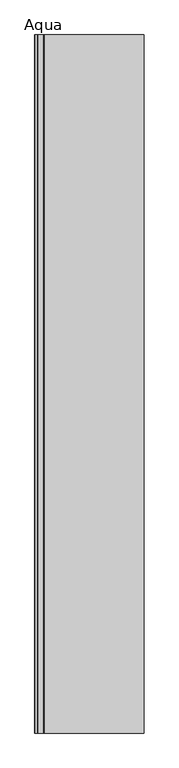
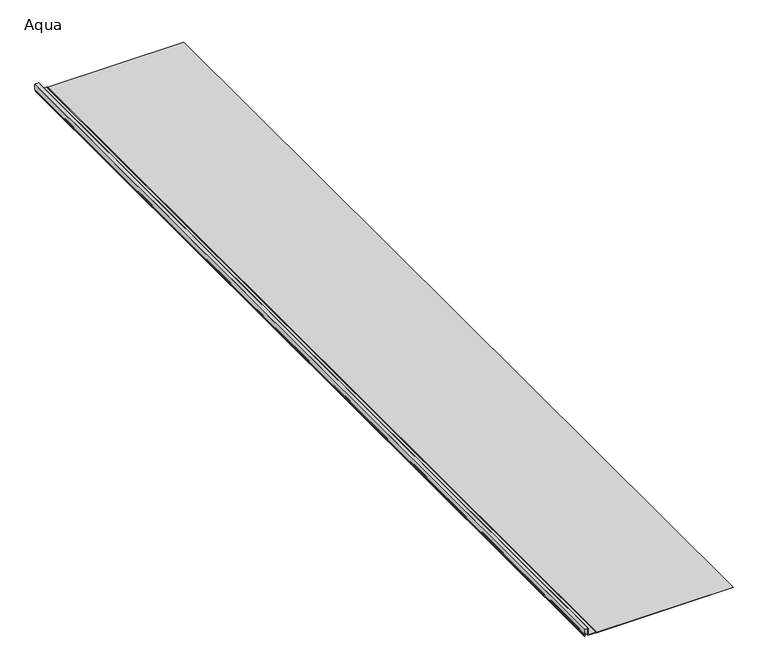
"""IFC4 building model written with IfcOpenShell, lengths in millimetres: proxy geometry, AQUAPLAST - Panel Dachowy i Elewacyjny Aqua : Aqua."""

from ifc_helpers import new_model, si_unit, point, frame, frame_2d, origin, origin_with_axes, place, context, project, spatial, polyline, circle_curve, trimmed, segment, composite_curve, outline, extrude, source, transform, mapped, element, save


def aqua_49a7eeef(model_context):
    return source(origin(), model_context, "Body", "SweptSolid", [
        extrude(outline(composite_curve([segment(polyline([(1.6, -237.5), (1.6, -260.6)]), True, "CONTINUOUS"), segment(trimmed(circle_curve(frame_2d((2.1, -260.6)), 0.5), [point((1.6, -260.6))], [point((2.1, -261.1))], True, "CARTESIAN"), True, "CONTINUOUS"), segment(polyline([(2.1, -261.1), (24.5, -261.1)]), True, "CONTINUOUS"), segment(trimmed(circle_curve(frame_2d((24.5, -261.6)), 0.5), [point((24.5, -261.1))], [point((25.0, -261.6))], False, "CARTESIAN"), True, "CONTINUOUS"), segment(polyline([(25.0, -261.6), (25.0, -273.6)]), True, "CONTINUOUS"), segment(trimmed(circle_curve(frame_2d((24.5, -273.6)), 0.5), [point((25.0, -273.6))], [point((24.5, -274.1))], False, "CARTESIAN"), True, "CONTINUOUS"), segment(polyline([(24.5, -274.1), (8.8039223, -274.1)]), True, "CONTINUOUS"), segment(trimmed(circle_curve(frame_2d((8.8039223, -273.4250457)), 0.6749543), [point((8.8039223, -274.1))], [point((8.1289934, -273.4191923))], False, "CARTESIAN"), True, "CONTINUOUS"), segment(trimmed(circle_curve(frame_2d((5.3847863, -273.4191923)), 2.7442071), [point((8.1289934, -273.4191923))], [point((2.6405793, -273.4191923))], True, "CARTESIAN"), True, "CONTINUOUS"), segment(polyline([(2.6405793, -273.4191923), (1.8403383, -273.4191923)]), True, "CONTINUOUS"), segment(trimmed(circle_curve(frame_2d((5.4137846, -273.4191923)), 3.5734462), [point((1.8403383, -273.4191923))], [point((8.9478642, -272.8902321))], False, "CARTESIAN"), True, "CONTINUOUS"), segment(trimmed(circle_curve(frame_2d((9.7850119, -272.4539484)), 0.9440125), [point((8.9478642, -272.8902321))], [point((9.7850119, -273.397961))], True, "CARTESIAN"), True, "CONTINUOUS"), segment(polyline([(9.7850119, -273.397961), (23.6993591, -273.397961)]), True, "CONTINUOUS"), segment(trimmed(circle_curve(frame_2d((23.6993591, -272.8966773)), 0.5012837), [point((23.6993591, -273.397961))], [point((24.2006428, -272.8966773))], True, "CARTESIAN"), True, "CONTINUOUS"), segment(polyline([(24.2006428, -272.8966773), (24.2006428, -262.4001579)]), True, "CONTINUOUS"), segment(trimmed(circle_curve(frame_2d((23.7003195, -262.4001579)), 0.5003233), [point((24.2006428, -262.4001579))], [point((23.7003195, -261.8998346))], True, "CARTESIAN"), True, "CONTINUOUS"), segment(polyline([(23.7003195, -261.8998346), (1.2999699, -261.8998346)]), True, "CONTINUOUS"), segment(trimmed(circle_curve(frame_2d((1.2999699, -261.3999248)), 0.4999098), [point((1.2999699, -261.8998346))], [point((0.8000601, -261.3999248))], False, "CARTESIAN"), True, "CONTINUOUS"), segment(polyline([(0.8000601, -261.3999248), (0.8000601, -237.5), (0.0, -234.0), (0.8, -234.0), (1.6, -237.5)]), True, "CONTINUOUS")], self_intersect=False)), frame((0.0, 0.0, 0.0), z_axis=(0.0, 1.0, 0.0), x_axis=(0.0, 0.0, 1.0)), (0.0, 0.0, 1.0), 3013.0),
        extrude(outline(polyline([(-234.0, 0.0), (-234.0, 3013.0), (197.9, 3013.0), (197.9, 0.0), (-234.0, 0.0)])), origin_with_axes(), (0.0, 0.0, 1.0), 0.8),
    ])


if __name__ == "__main__":
    model = new_model("IFC4")
    model_context = context("Model", 3, world=origin())
    ifc_project = project(units=[si_unit("LENGTHUNIT", "METRE", prefix="MILLI")], contexts=[model_context])
    site = spatial("IfcSite", under=ifc_project)
    building = spatial("IfcBuilding", under=site)
    placement = place(None, origin())
    aqua_shape = aqua_49a7eeef(model_context)
    element("IfcBuildingElementProxy", 1, Name="AQUAPLAST - Panel Dachowy i Elewacyjny Aqua : Aqua", ObjectType="AQUAPLAST - Panel Dachowy i Elewacyjny Aqua : Aqua", at=placement, inside=building, context=model_context, shape_type="MappedRepresentation", body=[
        mapped(aqua_shape, transform((0.0, 0.0, 0.0), x_axis=(1.0, 0.0, 0.0), y_axis=(0.0, 1.0, 0.0), z_axis=(0.0, 0.0, 1.0))),
    ])
    save(model, "model.ifc")
